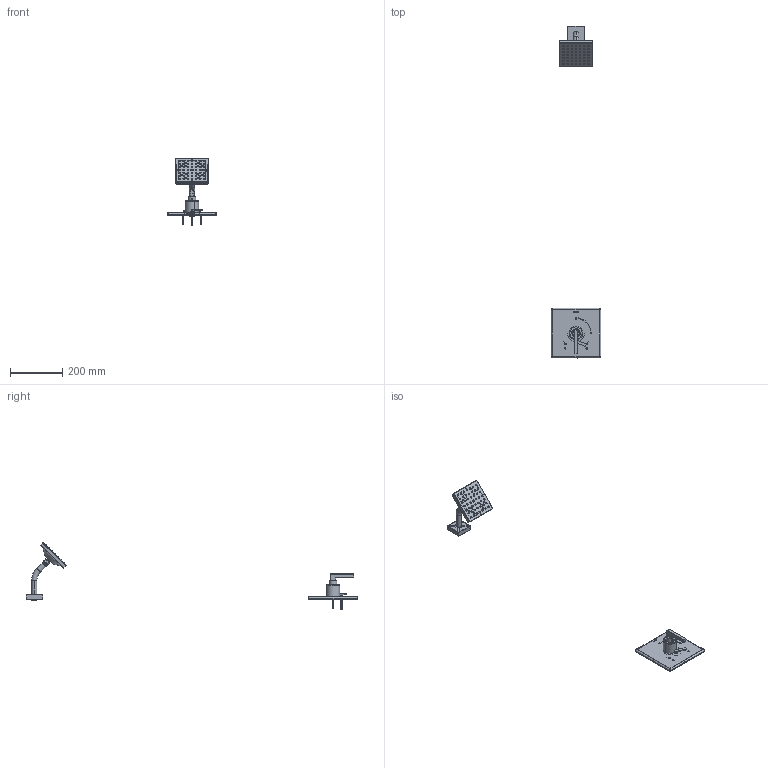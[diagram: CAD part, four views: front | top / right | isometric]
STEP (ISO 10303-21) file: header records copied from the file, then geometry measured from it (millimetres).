
FILE_DESCRIPTION (( 'STEP AP214' ), '1' );
FILE_NAME ('S3691TRM.STEP', '2025-01-15T10:29:32', ( '' ), ( '' ), 'SwSTEP 2.0', 'SolidWorks 2023', '' );
FILE_SCHEMA (( 'AUTOMOTIVE_DESIGN' ));
Length unit declared in the file: inch
Products named in the file (1): S3691TRM
Bounding box: 190.5 x 1270.43 x 256.39 mm (x, y, z)
Surface area: 235991.2 mm2 (no closed solid volume)
Topology: 0 solids, 167 shells, 1014 faces, 3605 edges, 2687 vertices
Faces by surface type: plane 324, cylinder 308, cone 198, bspline 143, torus 37, sphere 4
Entity records: 71549 total; most frequent: CARTESIAN_POINT 43145, ORIENTED_EDGE 5376, DIRECTION 5251, EDGE_CURVE 3590, VERTEX_POINT 2684, AXIS2_PLACEMENT_3D 1906, VECTOR 1439, LINE 1439
